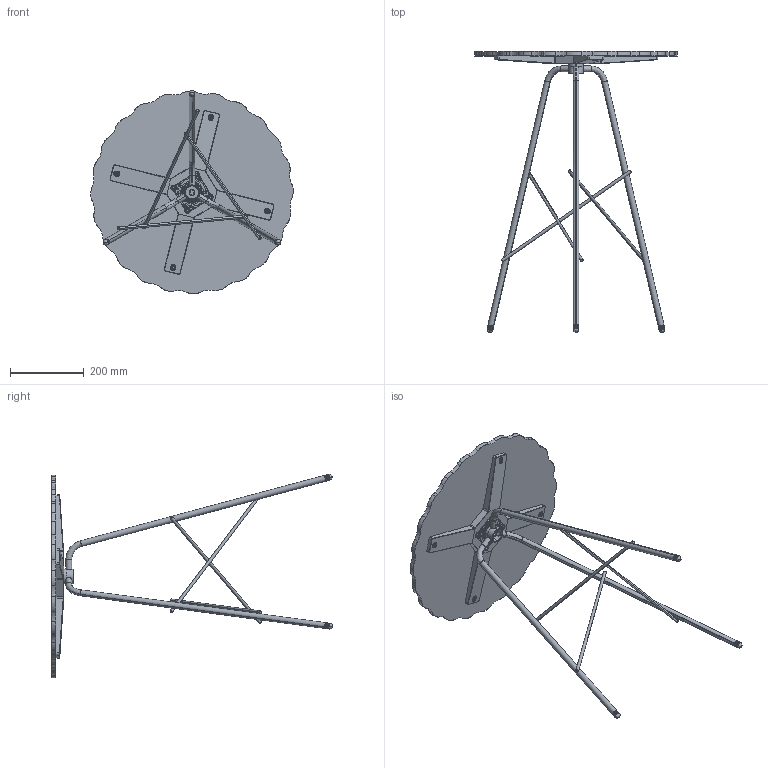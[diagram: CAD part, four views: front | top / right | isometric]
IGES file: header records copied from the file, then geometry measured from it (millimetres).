
Start section: SolidWorks IGES file using NURBS representation for surfaces
Global section: file name: R:\UFFICIO TECNICO\ARCHIVIO DISEGNI\3D\BREAK 3.IGS; native system: SolidWorks 2011; preprocessor: SolidWorks 2011; author: Alberto; date: 120514.100109; units: millimetre
Bounding box: 549.92 x 761.76 x 552.38 mm (x, y, z)
Surface area: 916420.6 mm2 (no closed solid volume)
Topology: 0 solids, 0 shells, 944 faces, 14095 edges, 14067 vertices
Faces by surface type: bspline 944
